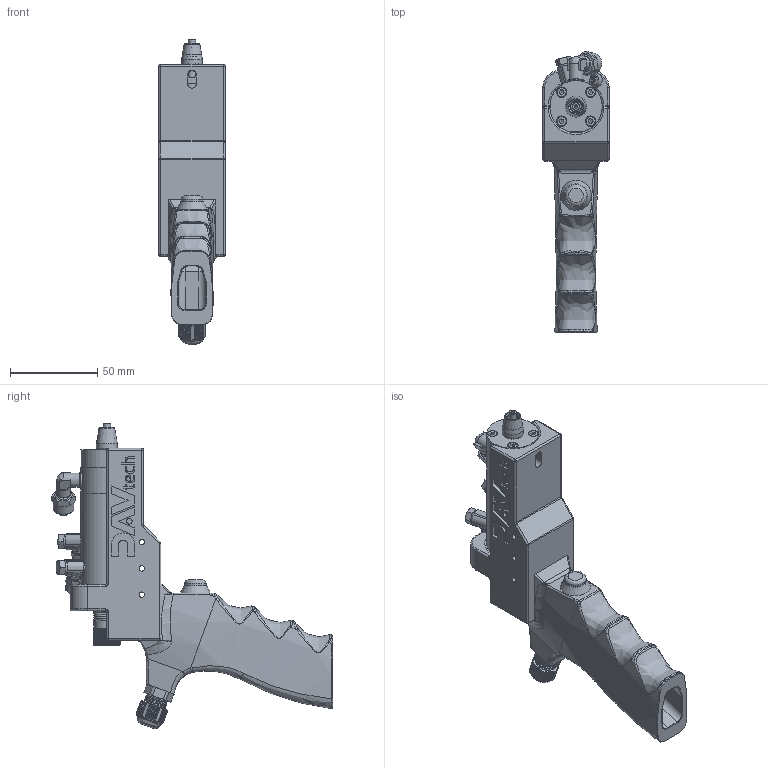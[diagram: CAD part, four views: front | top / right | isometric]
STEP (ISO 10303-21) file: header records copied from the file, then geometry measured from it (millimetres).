
FILE_DESCRIPTION (( 'STEP AP214' ), '1' );
FILE_NAME ('DA-250-SY-MAN.STEP', '2024-10-11T09:46:31', ( '' ), ( '' ), 'SwSTEP 2.0', 'SolidWorks 2024', '' );
FILE_SCHEMA (( 'AUTOMOTIVE_DESIGN' ));
Length unit declared in the file: millimetre
Products named in the file (1): DA-250-SY-MAN
Bounding box: 38 x 161.08 x 174.86 mm (x, y, z)
Volume: 215153.3 mm3; surface area: 81375.3 mm2
Topology: 24 solids, 24 shells, 1643 faces, 4178 edges, 2601 vertices
Faces by surface type: plane 835, cylinder 421, bspline 209, cone 120, torus 40, sphere 18
Full cylindrical faces by diameter (mm): 1.5 x1, 2 x8, 2.5 x8, 3 x22, 3.4 x4, 3.5 x1, 4 x1, 4.2 x4, 4.4 x1, 4.885 x2, 5 x8, 5.1 x1, 5.15 x2, 5.5 x8, 6 x13, 6.05 x1, 6.15 x1, 6.5 x1, 6.55 x1, 7 x2, 7.1 x2, 8 x8, 8.2 x1, 8.34 x3, 8.5 x2, 8.6 x1, 8.8 x1, 9 x2, 9.8 x1, 9.9 x2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
Entity records: 63915 total; most frequent: CARTESIAN_POINT 28203, ORIENTED_EDGE 7574, DIRECTION 6534, EDGE_CURVE 3787, AXIS2_PLACEMENT_3D 2486, VERTEX_POINT 2474, EDGE_LOOP 2031, FACE_OUTER_BOUND 1817
